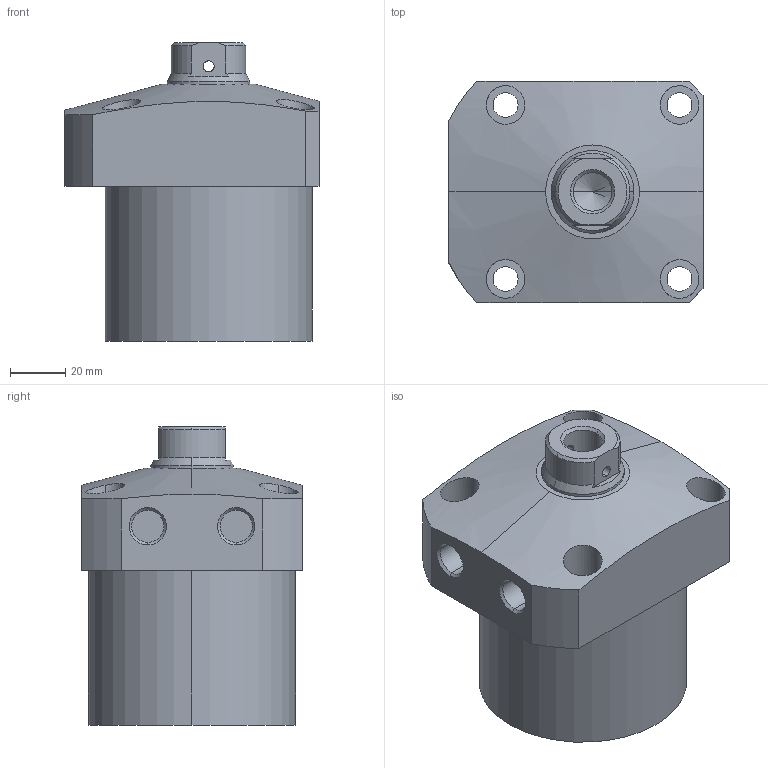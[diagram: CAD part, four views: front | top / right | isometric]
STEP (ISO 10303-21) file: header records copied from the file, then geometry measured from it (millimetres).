
FILE_DESCRIPTION (( 'STEP AP203' ), '1' );
FILE_NAME ('CLL-075CB-040.STEP', '2019-12-20T06:06:53', ( '' ), ( '' ), 'SwSTEP 2.0', 'SolidWorks 2015', '' );
FILE_SCHEMA (( 'CONFIG_CONTROL_DESIGN' ));
Length unit declared in the file: millimetre
Products named in the file (1): CLL-075CB-040
Bounding box: 92 x 80 x 108 mm (x, y, z)
Volume: 469971.1 mm3; surface area: 44549.3 mm2
Topology: 1 solids, 1 shells, 76 faces, 181 edges, 116 vertices
Faces by surface type: cylinder 39, plane 22, cone 15
Entity records: 2809 total; most frequent: CARTESIAN_POINT 932, DIRECTION 386, ORIENTED_EDGE 358, EDGE_CURVE 179, AXIS2_PLACEMENT_3D 158, VERTEX_POINT 116, EDGE_LOOP 99, CIRCLE 81
